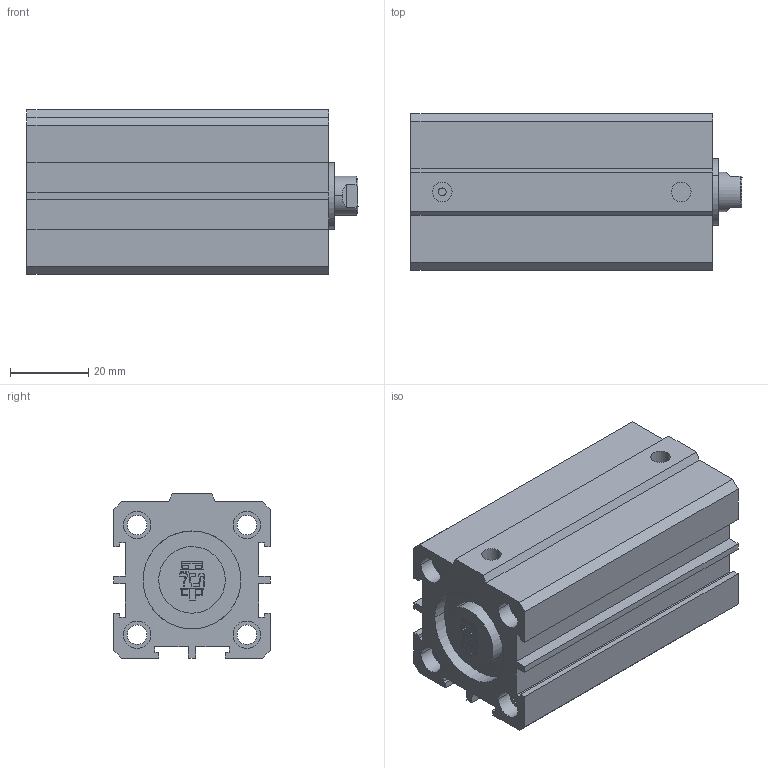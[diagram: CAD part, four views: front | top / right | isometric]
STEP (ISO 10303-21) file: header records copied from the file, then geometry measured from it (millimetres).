
FILE_DESCRIPTION(('CATIA V5 STEP Exchange'),'2;1');
FILE_NAME('D:\PDA\PDA-STP\PDA 25-10\PDA 25-10-45.stp','2016-02-02T13:43:58+00:00',('none'),('none'),'Version 5-6 Release 2012','CATIA V5 STEP AP203','none');
FILE_SCHEMA(('CONFIG_CONTROL_DESIGN'));
Length unit declared in the file: millimetre
Products named in the file (1): PDA 25-10-45-00
Assembly tree (2 placements, depth 2):
  PDA 25-10-45-00
    #58
    #6229
Bounding box: 84.75 x 40 x 42 mm (x, y, z)
Volume: 87273.4 mm3; surface area: 35926.2 mm2
Topology: 3 solids, 4 shells, 238 faces, 606 edges, 406 vertices
Faces by surface type: plane 166, cylinder 68, cone 4
Entity records: 6735 total; most frequent: ORIENTED_EDGE 1212, CARTESIAN_POINT 1202, DIRECTION 914, EDGE_CURVE 606, VECTOR 446, LINE 446, VERTEX_POINT 406, AXIS2_PLACEMENT_3D 310
